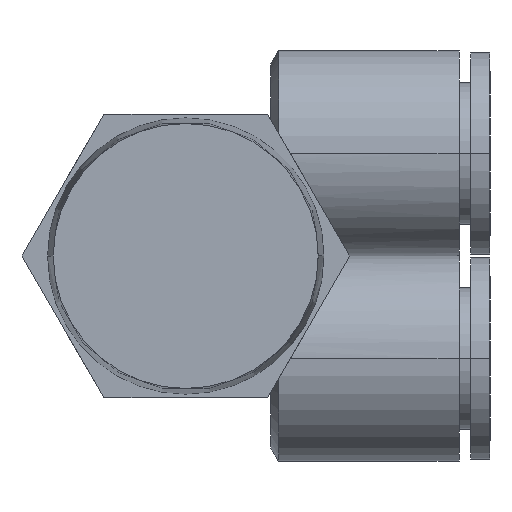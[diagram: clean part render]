
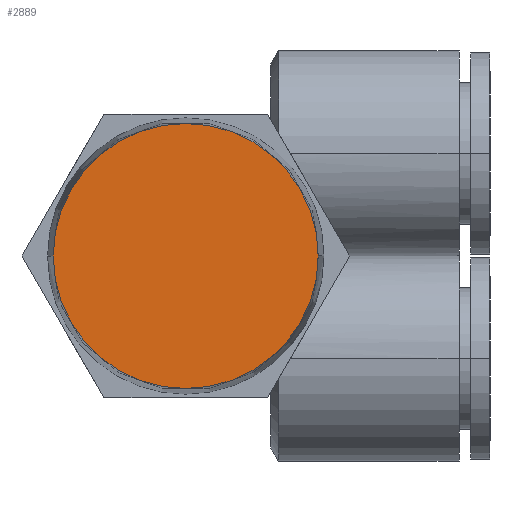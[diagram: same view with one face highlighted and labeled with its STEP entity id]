
A CAD part, front view. The second image highlights one B-rep face of the part: STEP entity #2889.
In plain terms, the highlighted planar face has unit normal (0, -1, 0).
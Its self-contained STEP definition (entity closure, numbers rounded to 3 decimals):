
#51 = CIRCLE ( 'NONE', #1873, 10.278 ) ;
#278 = VERTEX_POINT ( 'NONE', #2245 ) ;
#306 = EDGE_CURVE ( 'NONE', #1926, #278, #644, .T. ) ;
#423 = DIRECTION ( 'NONE',  ( 0., -1., 0. ) ) ;
#544 = ORIENTED_EDGE ( 'NONE', *, *, #1927, .T. ) ;
#644 = CIRCLE ( 'NONE', #2544, 10.278 ) ;
#1447 = CARTESIAN_POINT ( 'NONE',  ( 10.278, -6.4, 0. ) ) ;
#1589 = FACE_OUTER_BOUND ( 'NONE', #3136, .T. ) ;
#1609 = CARTESIAN_POINT ( 'NONE',  ( 11., -6.4, 22. ) ) ;
#1867 = DIRECTION ( 'NONE',  ( 0., 0., -1. ) ) ;
#1873 = AXIS2_PLACEMENT_3D ( 'NONE', #2925, #2663, #3870 ) ;
#1926 = VERTEX_POINT ( 'NONE', #1447 ) ;
#1927 = EDGE_CURVE ( 'NONE', #278, #1926, #51, .T. ) ;
#1943 = DIRECTION ( 'NONE',  ( 0., 0., -1. ) ) ;
#2204 = PLANE ( 'NONE',  #2923 ) ;
#2245 = CARTESIAN_POINT ( 'NONE',  ( -10.278, -6.4, 0. ) ) ;
#2247 = DIRECTION ( 'NONE',  ( 0., -1., 0. ) ) ;
#2544 = AXIS2_PLACEMENT_3D ( 'NONE', #3841, #423, #1943 ) ;
#2663 = DIRECTION ( 'NONE',  ( 0., -1., 0. ) ) ;
#2889 = ADVANCED_FACE ( 'NONE', ( #1589 ), #2204, .T. ) ;
#2923 = AXIS2_PLACEMENT_3D ( 'NONE', #1609, #2247, #1867 ) ;
#2925 = CARTESIAN_POINT ( 'NONE',  ( 0., -6.4, 0. ) ) ;
#3136 = EDGE_LOOP ( 'NONE', ( #544, #3717 ) ) ;
#3717 = ORIENTED_EDGE ( 'NONE', *, *, #306, .T. ) ;
#3841 = CARTESIAN_POINT ( 'NONE',  ( 0., -6.4, 0. ) ) ;
#3870 = DIRECTION ( 'NONE',  ( 0., 0., -1. ) ) ;
